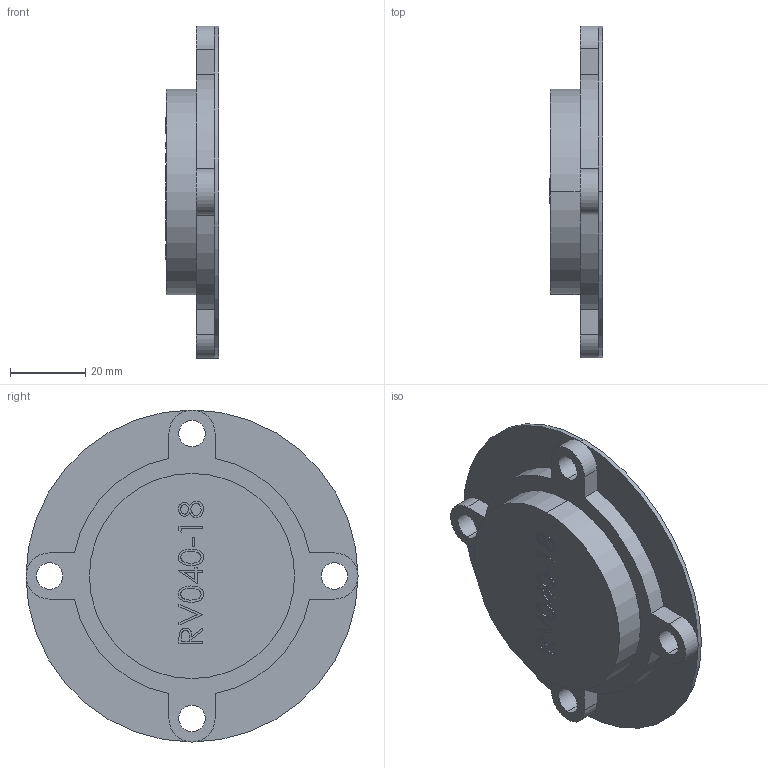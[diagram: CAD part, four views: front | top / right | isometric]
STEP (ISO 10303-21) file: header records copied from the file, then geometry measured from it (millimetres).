
FILE_DESCRIPTION (( 'STEP AP203' ), '1' );
FILE_NAME ('CALM40-OPC.STEP', '2014-09-02T03:45:28', ( 'user' ), ( '' ), 'SwSTEP 2.0', 'SolidWorks 2012', '' );
FILE_SCHEMA (( 'CONFIG_CONTROL_DESIGN' ));
Length unit declared in the file: millimetre
Products named in the file (1): CALM40-OPC
Bounding box: 14.2 x 88 x 88 mm (x, y, z)
Volume: 11529.1 mm3; surface area: 17695.9 mm2
Topology: 1 solids, 1 shells, 137 faces, 347 edges, 229 vertices
Faces by surface type: plane 72, bspline 40, cylinder 25
Entity records: 6845 total; most frequent: CARTESIAN_POINT 3666, ORIENTED_EDGE 694, DIRECTION 518, EDGE_CURVE 347, VERTEX_POINT 229, LINE 212, VECTOR 212, EDGE_LOOP 162
